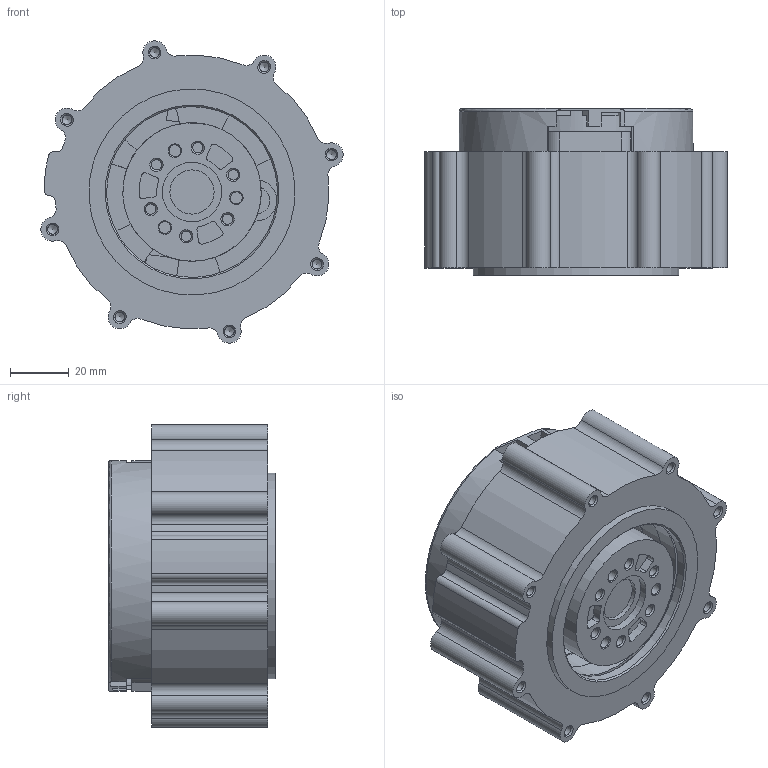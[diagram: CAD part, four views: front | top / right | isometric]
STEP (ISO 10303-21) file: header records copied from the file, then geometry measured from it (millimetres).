
FILE_DESCRIPTION(/* description */ ('STEP AP242 Edition 2','CAx-IF Rec.Pracs.---Representation and Presentation of Product Manufacturing Information (PMI)---4.0---2014-10-13','CAx-IF Rec.Pracs.---3D Tessellated Geometry---0.4---2014-09-14','2;1','CAx-IF Rec.Pracs.---User Defined Attributes---1.5---2016-08-15'),/* implementation_level */ '2;1');
FILE_NAME(/* name */ 'Assy_ForMFG - L_Hip_Roll_RS03',/* time_stamp */ '2026-05-15T19:56:51Z',/* author */ (''),/* organization */ (''),/* preprocessor_version */ 'ST-DEVELOPER v20',/* originating_system */ 'ONSHAPE BY PTC INC, 1.215',/* authorisation */ ' ');
FILE_SCHEMA (('AP242_MANAGED_MODEL_BASED_3D_ENGINEERING_MIM_LF { 1 0 10303 442 3 1 4 }'));
Length unit declared in the file: metre
Products named in the file (1): L_Hip_Roll_RS03
Bounding box: 102.63 x 56.6 x 102.63 mm (x, y, z)
Volume: 181195.6 mm3; surface area: 80966.4 mm2
Topology: 1 solids, 1 shells, 404 faces, 1124 edges, 753 vertices
Faces by surface type: cylinder 198, plane 141, cone 61, torus 2, bspline 2
Full cylindrical faces by diameter (mm): 1.6 x4, 2.4 x4, 2.5 x3, 3.3 x16, 3.5 x6, 4 x7, 4.2 x8, 6 x3, 15 x1, 19 x1, 20.2 x1, 47 x1, 58 x3, 59 x1, 59.94 x1, 62.8 x1, 63 x2, 64 x1, 70 x1, 89.6 x1
Entity records: 11778 total; most frequent: DIRECTION 2180, CARTESIAN_POINT 2069, ORIENTED_EDGE 1768, AXIS2_PLACEMENT_3D 905, EDGE_CURVE 884, VERTEX_POINT 664, FACE_BOUND 610, EDGE_LOOP 587
